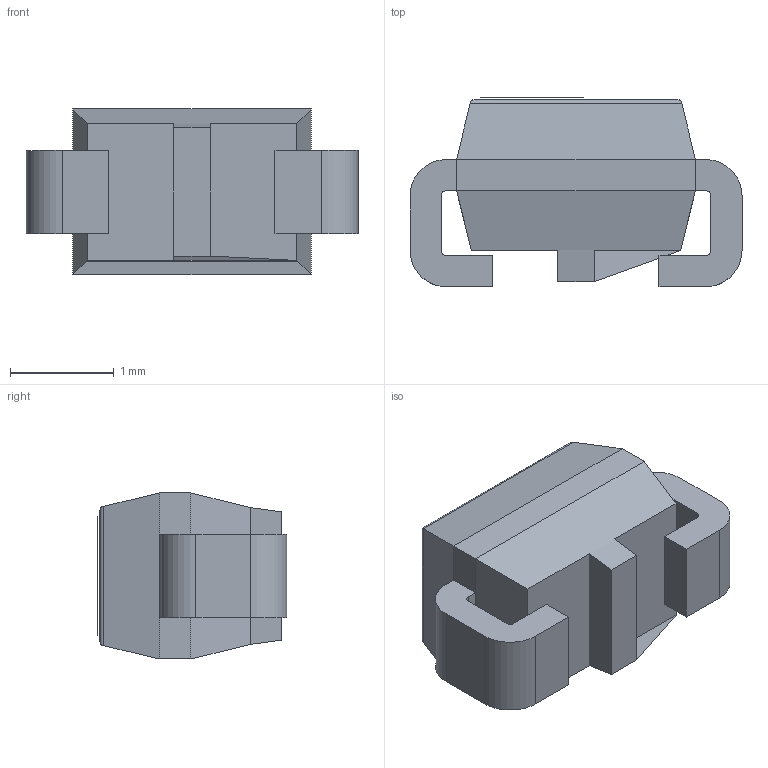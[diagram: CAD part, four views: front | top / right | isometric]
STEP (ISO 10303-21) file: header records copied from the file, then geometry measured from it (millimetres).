
FILE_DESCRIPTION (( 'STEP AP214' ), '1' );
FILE_NAME ( 'CAPMP3216X180.STEP', '2013-08-13T09:47:17', ( '' ), ( '' ), 'FPX Expert 2013', 'PCB Libraries', '' );
FILE_SCHEMA (( 'AUTOMOTIVE_DESIGN' ));
Length unit declared in the file: millimetre
Products named in the file (1): CAPMP3216X180
Bounding box: 3.2 x 1.83 x 1.6 mm (x, y, z)
Volume: 0.8 mm3; surface area: 26.5 mm2
Topology: 3 solids, 4 shells, 56 faces, 136 edges, 85 vertices
Faces by surface type: plane 44, cylinder 12
Entity records: 1786 total; most frequent: CARTESIAN_POINT 285, ORIENTED_EDGE 264, DIRECTION 258, EDGE_CURVE 132, VECTOR 112, LINE 112, VERTEX_POINT 84, AXIS2_PLACEMENT_3D 73
